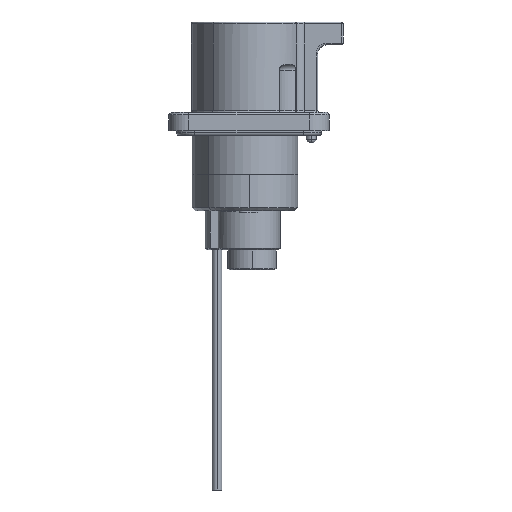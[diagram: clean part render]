
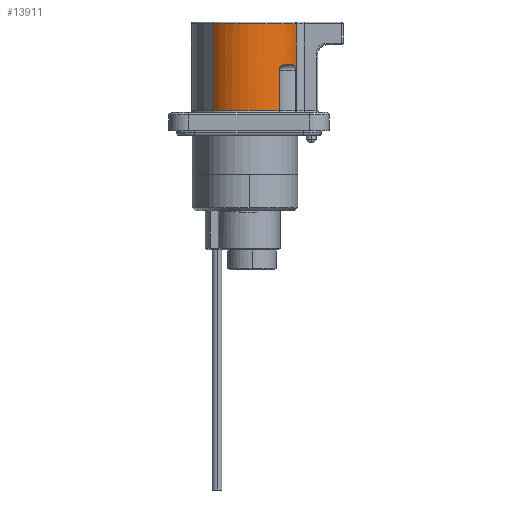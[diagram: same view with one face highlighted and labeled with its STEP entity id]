
A CAD part, left-side view. The second image highlights one B-rep face of the part: STEP entity #13911.
In plain terms, the highlighted cylindrical face has radius 8.3 mm (diameter 16.6 mm), a partial arc.
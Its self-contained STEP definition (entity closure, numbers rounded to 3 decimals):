
#99 = ORIENTED_EDGE ( 'NONE', *, *, #12825, .T. ) ;
#154 = EDGE_CURVE ( 'NONE', #4090, #18292, #5025, .T. ) ;
#338 = AXIS2_PLACEMENT_3D ( 'NONE', #17025, #1053, #21434 ) ;
#1053 = DIRECTION ( 'NONE',  ( 0., 0., 1. ) ) ;
#1317 = ORIENTED_EDGE ( 'NONE', *, *, #24195, .T. ) ;
#1518 = DIRECTION ( 'NONE',  ( 0., 0., 1. ) ) ;
#1675 = ORIENTED_EDGE ( 'NONE', *, *, #18756, .T. ) ;
#1866 = CARTESIAN_POINT ( 'NONE',  ( -10.056, -6.586, 10.936 ) ) ;
#1915 = CARTESIAN_POINT ( 'NONE',  ( -10.187, 6.479, -29.318 ) ) ;
#2028 = CIRCLE ( 'NONE', #338, 8.3 ) ;
#2074 = EDGE_CURVE ( 'NONE', #29022, #10742, #11104, .T. ) ;
#2167 = CARTESIAN_POINT ( 'NONE',  ( -10.187, 6.479, 17.7 ) ) ;
#2956 = DIRECTION ( 'NONE',  ( 0., 0., 1. ) ) ;
#3806 = DIRECTION ( 'NONE',  ( 0., 0., -1. ) ) ;
#4090 = VERTEX_POINT ( 'NONE', #24203 ) ;
#4302 = CARTESIAN_POINT ( 'NONE',  ( -10.985, -5.754, 10.97 ) ) ;
#5025 = LINE ( 'NONE', #16947, #18334 ) ;
#5123 = VECTOR ( 'NONE', #7720, 1000. ) ;
#5376 = CARTESIAN_POINT ( 'NONE',  ( -9.043, -7.249, 7. ) ) ;
#5585 = AXIS2_PLACEMENT_3D ( 'NONE', #10384, #3806, #21447 ) ;
#5804 = DIRECTION ( 'NONE',  ( 1., 0., 0. ) ) ;
#5816 = EDGE_CURVE ( 'NONE', #14121, #21487, #15986, .T. ) ;
#5889 = EDGE_CURVE ( 'NONE', #14121, #4090, #25839, .T. ) ;
#6914 = AXIS2_PLACEMENT_3D ( 'NONE', #14149, #2956, #16555 ) ;
#6962 = LINE ( 'NONE', #28019, #24097 ) ;
#7503 = ORIENTED_EDGE ( 'NONE', *, *, #5816, .F. ) ;
#7720 = DIRECTION ( 'NONE',  ( 0., 0., -1. ) ) ;
#8069 = DIRECTION ( 'NONE',  ( 0., 0., 1. ) ) ;
#8436 = CARTESIAN_POINT ( 'NONE',  ( -11.398, -5.291, 10.909 ) ) ;
#8458 = CARTESIAN_POINT ( 'NONE',  ( -11.991, -4.475, 10. ) ) ;
#8495 = CARTESIAN_POINT ( 'NONE',  ( -11.754, -4.825, 10.688 ) ) ;
#8533 = CARTESIAN_POINT ( 'NONE',  ( -9.56, -6.938, 10.789 ) ) ;
#8586 = CARTESIAN_POINT ( 'NONE',  ( -11.977, -4.496, 10.21 ) ) ;
#8809 = CARTESIAN_POINT ( 'NONE',  ( -9.397, -7.042, 10.699 ) ) ;
#10384 = CARTESIAN_POINT ( 'NONE',  ( -5., 0., 17.7 ) ) ;
#10742 = VERTEX_POINT ( 'NONE', #18955 ) ;
#10790 = CARTESIAN_POINT ( 'NONE',  ( -9.065, -7.237, 10.209 ) ) ;
#11104 = LINE ( 'NONE', #5376, #5123 ) ;
#12246 = B_SPLINE_CURVE_WITH_KNOTS ( 'NONE', 3,
 ( #21998, #24140, #8586, #26514, #13086, #12982, #8495, #28662, #17704, #8436, #17321, #4302, #19989, #24271, #24079, #1866, #28503, #8533, #8809, #24476, #26356, #10790, #24371, #13024 ),
 .UNSPECIFIED., .F., .F.,
 ( 4, 2, 2, 2, 2, 2, 2, 2, 2, 2, 2, 4 ),
 ( -0.002, -0.002, -0.002, -0.002, -0.001, -0.001, 0., 0.001, 0.001, 0.002, 0.002, 0.002 ),
 .UNSPECIFIED. ) ;
#12528 = DIRECTION ( 'NONE',  ( 0., 0., 1. ) ) ;
#12813 = ORIENTED_EDGE ( 'NONE', *, *, #5889, .T. ) ;
#12825 = EDGE_CURVE ( 'NONE', #18292, #29022, #12246, .T. ) ;
#12982 = CARTESIAN_POINT ( 'NONE',  ( -11.805, -4.753, 10.628 ) ) ;
#13024 = CARTESIAN_POINT ( 'NONE',  ( -9.043, -7.249, 10. ) ) ;
#13086 = CARTESIAN_POINT ( 'NONE',  ( -11.891, -4.627, 10.485 ) ) ;
#13911 = ADVANCED_FACE ( 'NONE', ( #16399 ), #23422, .T. ) ;
#14003 = VERTEX_POINT ( 'NONE', #23998 ) ;
#14121 = VERTEX_POINT ( 'NONE', #25097 ) ;
#14149 = CARTESIAN_POINT ( 'NONE',  ( -5., 0., 3.3 ) ) ;
#14295 = CARTESIAN_POINT ( 'NONE',  ( -9.043, -7.249, 10. ) ) ;
#15986 = LINE ( 'NONE', #1915, #23358 ) ;
#16399 = FACE_OUTER_BOUND ( 'NONE', #18786, .T. ) ;
#16555 = DIRECTION ( 'NONE',  ( 1., 0., 0. ) ) ;
#16947 = CARTESIAN_POINT ( 'NONE',  ( -11.991, -4.475, 7. ) ) ;
#17025 = CARTESIAN_POINT ( 'NONE',  ( -5., 0., 3.3 ) ) ;
#17321 = CARTESIAN_POINT ( 'NONE',  ( -11.264, -5.449, 10.937 ) ) ;
#17704 = CARTESIAN_POINT ( 'NONE',  ( -11.585, -5.053, 10.82 ) ) ;
#18022 = VERTEX_POINT ( 'NONE', #22551 ) ;
#18292 = VERTEX_POINT ( 'NONE', #8458 ) ;
#18334 = VECTOR ( 'NONE', #28227, 1000. ) ;
#18756 = EDGE_CURVE ( 'NONE', #10742, #14003, #2028, .T. ) ;
#18786 = EDGE_LOOP ( 'NONE', ( #24297, #1317, #7503, #12813, #28326, #99, #22165, #1675 ) ) ;
#18801 = EDGE_CURVE ( 'NONE', #14003, #18022, #6962, .T. ) ;
#18955 = CARTESIAN_POINT ( 'NONE',  ( -9.043, -7.249, 3.3 ) ) ;
#19987 = AXIS2_PLACEMENT_3D ( 'NONE', #28036, #8069, #5804 ) ;
#19989 = CARTESIAN_POINT ( 'NONE',  ( -10.839, -5.902, 10.975 ) ) ;
#21434 = DIRECTION ( 'NONE',  ( 1., 0., 0. ) ) ;
#21447 = DIRECTION ( 'NONE',  ( 1., 0., 0. ) ) ;
#21487 = VERTEX_POINT ( 'NONE', #2167 ) ;
#21528 = CIRCLE ( 'NONE', #5585, 8.3 ) ;
#21998 = CARTESIAN_POINT ( 'NONE',  ( -11.991, -4.475, 10. ) ) ;
#22165 = ORIENTED_EDGE ( 'NONE', *, *, #2074, .T. ) ;
#22551 = CARTESIAN_POINT ( 'NONE',  ( -8.896, -7.329, 17.7 ) ) ;
#23358 = VECTOR ( 'NONE', #1518, 1000. ) ;
#23422 = CYLINDRICAL_SURFACE ( 'NONE', #19987, 8.3 ) ;
#23998 = CARTESIAN_POINT ( 'NONE',  ( -8.896, -7.329, 3.3 ) ) ;
#24079 = CARTESIAN_POINT ( 'NONE',  ( -10.378, -6.325, 10.97 ) ) ;
#24097 = VECTOR ( 'NONE', #12528, 1000. ) ;
#24140 = CARTESIAN_POINT ( 'NONE',  ( -11.991, -4.475, 10.106 ) ) ;
#24195 = EDGE_CURVE ( 'NONE', #18022, #21487, #21528, .T. ) ;
#24203 = CARTESIAN_POINT ( 'NONE',  ( -11.991, -4.475, 3.3 ) ) ;
#24271 = CARTESIAN_POINT ( 'NONE',  ( -10.535, -6.188, 10.975 ) ) ;
#24297 = ORIENTED_EDGE ( 'NONE', *, *, #18801, .T. ) ;
#24371 = CARTESIAN_POINT ( 'NONE',  ( -9.043, -7.249, 10.106 ) ) ;
#24476 = CARTESIAN_POINT ( 'NONE',  ( -9.199, -7.16, 10.483 ) ) ;
#25097 = CARTESIAN_POINT ( 'NONE',  ( -10.187, 6.479, 3.3 ) ) ;
#25839 = CIRCLE ( 'NONE', #6914, 8.3 ) ;
#26356 = CARTESIAN_POINT ( 'NONE',  ( -9.143, -7.192, 10.399 ) ) ;
#26514 = CARTESIAN_POINT ( 'NONE',  ( -11.928, -4.572, 10.4 ) ) ;
#28019 = CARTESIAN_POINT ( 'NONE',  ( -8.896, -7.329, -29.318 ) ) ;
#28036 = CARTESIAN_POINT ( 'NONE',  ( -5., 0., -29.318 ) ) ;
#28227 = DIRECTION ( 'NONE',  ( 0., 0., 1. ) ) ;
#28326 = ORIENTED_EDGE ( 'NONE', *, *, #154, .T. ) ;
#28503 = CARTESIAN_POINT ( 'NONE',  ( -9.889, -6.711, 10.907 ) ) ;
#28662 = CARTESIAN_POINT ( 'NONE',  ( -11.644, -4.976, 10.783 ) ) ;
#29022 = VERTEX_POINT ( 'NONE', #14295 ) ;
